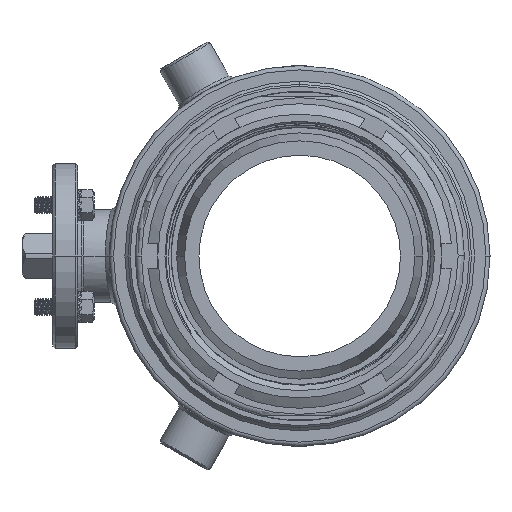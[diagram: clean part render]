
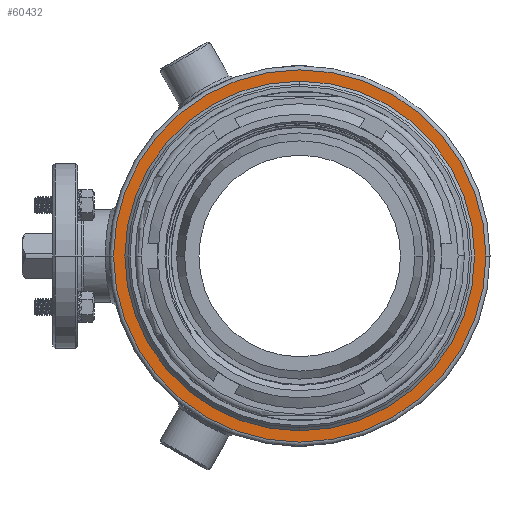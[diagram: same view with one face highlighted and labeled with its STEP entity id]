
A CAD part, left-side view. The second image highlights one B-rep face of the part: STEP entity #60432.
In plain terms, the highlighted planar face has unit normal (-1, 0, 0).
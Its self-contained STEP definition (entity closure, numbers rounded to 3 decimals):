
#66=CARTESIAN_POINT('',(-46.,0.,0.));
#67=DIRECTION('',(-1.,0.,0.));
#68=DIRECTION('',(0.,-1.,0.));
#69=AXIS2_PLACEMENT_3D('',#66,#67,#68);
#71=CARTESIAN_POINT('',(-46.,0.,0.));
#72=DIRECTION('',(-1.,0.,0.));
#73=DIRECTION('',(0.,1.,0.));
#74=AXIS2_PLACEMENT_3D('',#71,#72,#73);
#76=CARTESIAN_POINT('',(-46.,0.,0.));
#77=DIRECTION('',(1.,0.,0.));
#78=DIRECTION('',(0.,0.,-1.));
#79=AXIS2_PLACEMENT_3D('',#76,#77,#78);
#81=CARTESIAN_POINT('',(-46.,0.,0.));
#82=DIRECTION('',(1.,0.,0.));
#83=DIRECTION('',(0.,0.,1.));
#84=AXIS2_PLACEMENT_3D('',#81,#82,#83);
#56648=CARTESIAN_POINT('',(-46.,-90.5,0.));
#56649=CARTESIAN_POINT('',(-46.,90.5,0.));
#56650=VERTEX_POINT('',#56648);
#56651=VERTEX_POINT('',#56649);
#57081=CARTESIAN_POINT('',(-46.,0.,-85.));
#57082=CARTESIAN_POINT('',(-46.,0.,85.));
#57083=VERTEX_POINT('',#57081);
#57084=VERTEX_POINT('',#57082);
#60417=CARTESIAN_POINT('',(-46.,0.,0.));
#60418=DIRECTION('',(-1.,0.,0.));
#60419=DIRECTION('',(0.,1.,0.));
#60420=AXIS2_PLACEMENT_3D('',#60417,#60418,#60419);
#60421=PLANE('',#60420);
#60423=ORIENTED_EDGE('',*,*,#60422,.F.);
#60425=ORIENTED_EDGE('',*,*,#60424,.F.);
#60426=EDGE_LOOP('',(#60423,#60425));
#60427=FACE_OUTER_BOUND('',#60426,.F.);
#60428=ORIENTED_EDGE('',*,*,#60384,.F.);
#60429=ORIENTED_EDGE('',*,*,#60399,.F.);
#60430=EDGE_LOOP('',(#60428,#60429));
#60431=FACE_BOUND('',#60430,.F.);
#60432=ADVANCED_FACE('',(#60427,#60431),#60421,.T.);
#70=CIRCLE('',#69,90.5);
#75=CIRCLE('',#74,90.5);
#80=CIRCLE('',#79,85.);
#85=CIRCLE('',#84,85.);
#60384=EDGE_CURVE('',#57083,#57084,#80,.T.);
#60399=EDGE_CURVE('',#57084,#57083,#85,.T.);
#60422=EDGE_CURVE('',#56650,#56651,#70,.T.);
#60424=EDGE_CURVE('',#56651,#56650,#75,.T.);
